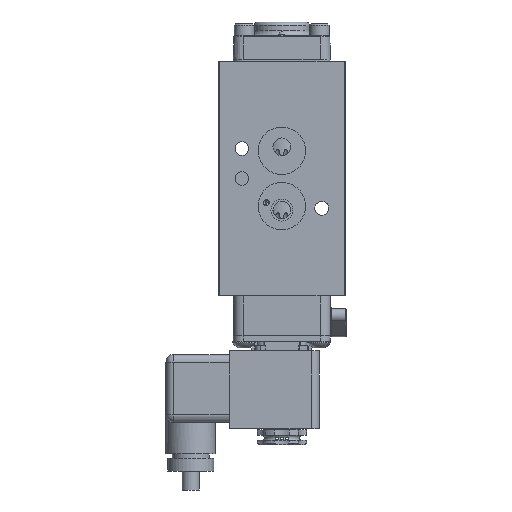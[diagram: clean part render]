
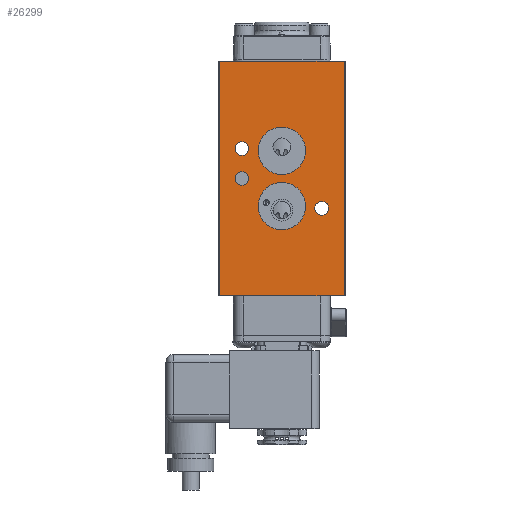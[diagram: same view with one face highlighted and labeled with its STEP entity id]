
A CAD part, front view. The second image highlights one B-rep face of the part: STEP entity #26299.
In plain terms, the highlighted planar face has unit normal (0, -1, 0).
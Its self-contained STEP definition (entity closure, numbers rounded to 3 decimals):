
#1096=FACE_BOUND('',#3678,.T.);
#1097=FACE_BOUND('',#3679,.T.);
#1098=FACE_BOUND('',#3680,.T.);
#1099=FACE_BOUND('',#3681,.T.);
#1100=FACE_BOUND('',#3682,.T.);
#1327=PLANE('',#28045);
#2065=FACE_OUTER_BOUND('',#3677,.T.);
#3677=EDGE_LOOP('',(#17179,#17180,#17181,#17182));
#3678=EDGE_LOOP('',(#17183));
#3679=EDGE_LOOP('',(#17184));
#3680=EDGE_LOOP('',(#17185));
#3681=EDGE_LOOP('',(#17186));
#3682=EDGE_LOOP('',(#17187));
#5447=CIRCLE('',#28046,0.953);
#5448=CIRCLE('',#28047,0.953);
#5449=CIRCLE('',#28048,0.276);
#5450=CIRCLE('',#28049,0.278);
#5451=CIRCLE('',#28050,0.278);
#6888=LINE('',#39972,#8720);
#6889=LINE('',#39974,#8721);
#6890=LINE('',#39976,#8722);
#6891=LINE('',#39977,#8723);
#8720=VECTOR('',#31317,1.);
#8721=VECTOR('',#31318,1.);
#8722=VECTOR('',#31319,1.);
#8723=VECTOR('',#31320,1.);
#10627=VERTEX_POINT('',#39970);
#10628=VERTEX_POINT('',#39971);
#10629=VERTEX_POINT('',#39973);
#10630=VERTEX_POINT('',#39975);
#10631=VERTEX_POINT('',#39978);
#10632=VERTEX_POINT('',#39980);
#10633=VERTEX_POINT('',#39982);
#10634=VERTEX_POINT('',#39984);
#10635=VERTEX_POINT('',#39986);
#13132=EDGE_CURVE('',#10627,#10628,#6888,.T.);
#13133=EDGE_CURVE('',#10627,#10629,#6889,.T.);
#13134=EDGE_CURVE('',#10630,#10629,#6890,.T.);
#13135=EDGE_CURVE('',#10630,#10628,#6891,.T.);
#13136=EDGE_CURVE('',#10631,#10631,#5447,.T.);
#13137=EDGE_CURVE('',#10632,#10632,#5448,.T.);
#13138=EDGE_CURVE('',#10633,#10633,#5449,.T.);
#13139=EDGE_CURVE('',#10634,#10634,#5450,.T.);
#13140=EDGE_CURVE('',#10635,#10635,#5451,.T.);
#17179=ORIENTED_EDGE('',*,*,#13132,.F.);
#17180=ORIENTED_EDGE('',*,*,#13133,.T.);
#17181=ORIENTED_EDGE('',*,*,#13134,.F.);
#17182=ORIENTED_EDGE('',*,*,#13135,.T.);
#17183=ORIENTED_EDGE('',*,*,#13136,.T.);
#17184=ORIENTED_EDGE('',*,*,#13137,.T.);
#17185=ORIENTED_EDGE('',*,*,#13138,.T.);
#17186=ORIENTED_EDGE('',*,*,#13139,.T.);
#17187=ORIENTED_EDGE('',*,*,#13140,.T.);
#26299=ADVANCED_FACE('',(#2065,#1096,#1097,#1098,#1099,#1100),#1327,.T.);
#28045=AXIS2_PLACEMENT_3D('',#39969,#31315,#31316);
#28046=AXIS2_PLACEMENT_3D('',#39979,#31321,#31322);
#28047=AXIS2_PLACEMENT_3D('',#39981,#31323,#31324);
#28048=AXIS2_PLACEMENT_3D('',#39983,#31325,#31326);
#28049=AXIS2_PLACEMENT_3D('',#39985,#31327,#31328);
#28050=AXIS2_PLACEMENT_3D('',#39987,#31329,#31330);
#31315=DIRECTION('center_axis',(0.,-1.,0.));
#31316=DIRECTION('ref_axis',(0.,0.,-1.));
#31317=DIRECTION('',(0.,0.,1.));
#31318=DIRECTION('',(1.,0.,0.));
#31319=DIRECTION('',(0.,0.,-1.));
#31320=DIRECTION('',(-1.,0.,0.));
#31321=DIRECTION('center_axis',(0.,1.,0.));
#31322=DIRECTION('ref_axis',(-1.,0.,0.));
#31323=DIRECTION('center_axis',(0.,1.,0.));
#31324=DIRECTION('ref_axis',(-1.,0.,0.));
#31325=DIRECTION('center_axis',(0.,1.,0.));
#31326=DIRECTION('ref_axis',(1.,0.,0.));
#31327=DIRECTION('center_axis',(0.,1.,0.));
#31328=DIRECTION('ref_axis',(1.,0.,0.));
#31329=DIRECTION('center_axis',(0.,1.,0.));
#31330=DIRECTION('ref_axis',(1.,0.,0.));
#39969=CARTESIAN_POINT('Origin',(2.54,-1.636,0.));
#39970=CARTESIAN_POINT('',(-2.5,-1.636,-4.71));
#39971=CARTESIAN_POINT('',(-2.5,-1.636,4.71));
#39972=CARTESIAN_POINT('',(-2.5,-1.636,0.));
#39973=CARTESIAN_POINT('',(2.5,-1.636,-4.71));
#39974=CARTESIAN_POINT('',(-2.54,-1.636,-4.71));
#39975=CARTESIAN_POINT('',(2.5,-1.636,4.71));
#39976=CARTESIAN_POINT('',(2.5,-1.636,0.));
#39977=CARTESIAN_POINT('',(-2.54,-1.636,4.71));
#39978=CARTESIAN_POINT('',(0.953,-1.636,1.111));
#39979=CARTESIAN_POINT('Origin',(0.,-1.636,1.111));
#39980=CARTESIAN_POINT('',(0.953,-1.636,-1.111));
#39981=CARTESIAN_POINT('Origin',(0.,-1.636,-1.111));
#39982=CARTESIAN_POINT('',(-1.876,-1.636,-0.001));
#39983=CARTESIAN_POINT('Origin',(-1.6,-1.636,-0.001));
#39984=CARTESIAN_POINT('',(1.322,-1.636,-1.2));
#39985=CARTESIAN_POINT('Origin',(1.6,-1.636,-1.2));
#39986=CARTESIAN_POINT('',(-1.878,-1.636,1.2));
#39987=CARTESIAN_POINT('Origin',(-1.6,-1.636,1.2));
